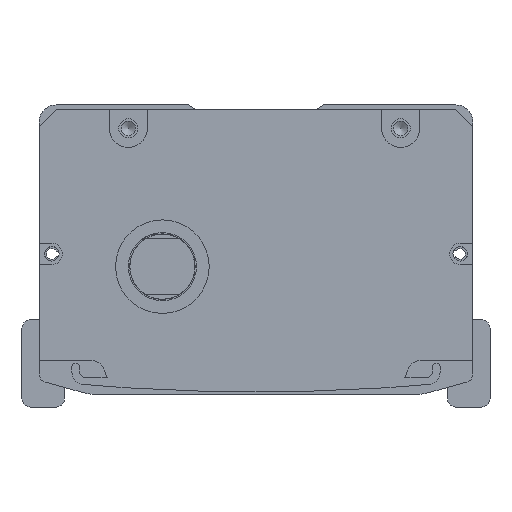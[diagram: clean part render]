
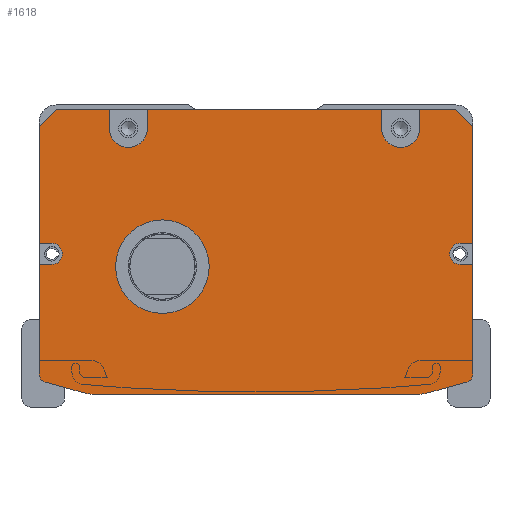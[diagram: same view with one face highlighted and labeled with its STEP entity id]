
A CAD part, front view. The second image highlights one B-rep face of the part: STEP entity #1618.
In plain terms, the highlighted planar face has unit normal (0, -1, 0).
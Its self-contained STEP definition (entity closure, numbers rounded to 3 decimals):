
#974=FACE_BOUND('',#3064,.T.);
#975=FACE_BOUND('',#3065,.T.);
#1618=ADVANCED_FACE('',(#974,#975),#2219,.F.);
#2219=PLANE('',#11855);
#3064=EDGE_LOOP('',(#5417,#5418,#5419,#5420,#5421,#5422,#5423,#5424,#5425,
#5426,#5427,#5428,#5429,#5430,#5431,#5432,#5433,#5434,#5435,#5436,#5437,
#5438,#5439,#5440,#5441,#5442,#5443,#5444));
#3065=EDGE_LOOP('',(#5445));
#4019=CIRCLE('',#11846,4.5);
#4020=CIRCLE('',#11847,4.5);
#4021=CIRCLE('',#11848,2.5);
#4022=CIRCLE('',#11849,2.);
#4023=CIRCLE('',#11850,10.);
#4024=CIRCLE('',#11851,10.);
#4025=CIRCLE('',#11852,2.);
#4026=CIRCLE('',#11853,2.5);
#4027=CIRCLE('',#11854,11.);
#5417=ORIENTED_EDGE('',*,*,#8746,.T.);
#5418=ORIENTED_EDGE('',*,*,#9162,.T.);
#5419=ORIENTED_EDGE('',*,*,#9163,.T.);
#5420=ORIENTED_EDGE('',*,*,#9164,.F.);
#5421=ORIENTED_EDGE('',*,*,#9165,.T.);
#5422=ORIENTED_EDGE('',*,*,#9166,.F.);
#5423=ORIENTED_EDGE('',*,*,#9167,.T.);
#5424=ORIENTED_EDGE('',*,*,#9168,.F.);
#5425=ORIENTED_EDGE('',*,*,#9169,.T.);
#5426=ORIENTED_EDGE('',*,*,#9170,.F.);
#5427=ORIENTED_EDGE('',*,*,#9171,.T.);
#5428=ORIENTED_EDGE('',*,*,#9172,.T.);
#5429=ORIENTED_EDGE('',*,*,#8778,.T.);
#5430=ORIENTED_EDGE('',*,*,#9173,.T.);
#5431=ORIENTED_EDGE('',*,*,#9174,.T.);
#5432=ORIENTED_EDGE('',*,*,#9175,.T.);
#5433=ORIENTED_EDGE('',*,*,#8774,.T.);
#5434=ORIENTED_EDGE('',*,*,#9176,.T.);
#5435=ORIENTED_EDGE('',*,*,#9177,.T.);
#5436=ORIENTED_EDGE('',*,*,#9178,.T.);
#5437=ORIENTED_EDGE('',*,*,#9179,.T.);
#5438=ORIENTED_EDGE('',*,*,#9180,.T.);
#5439=ORIENTED_EDGE('',*,*,#9181,.T.);
#5440=ORIENTED_EDGE('',*,*,#9182,.T.);
#5441=ORIENTED_EDGE('',*,*,#8750,.T.);
#5442=ORIENTED_EDGE('',*,*,#9183,.T.);
#5443=ORIENTED_EDGE('',*,*,#9184,.T.);
#5444=ORIENTED_EDGE('',*,*,#9185,.T.);
#5445=ORIENTED_EDGE('',*,*,#9186,.T.);
#7622=VERTEX_POINT('',#16324);
#7623=VERTEX_POINT('',#16326);
#7626=VERTEX_POINT('',#16332);
#7627=VERTEX_POINT('',#16334);
#7648=VERTEX_POINT('',#16379);
#7649=VERTEX_POINT('',#16381);
#7652=VERTEX_POINT('',#16387);
#7653=VERTEX_POINT('',#16389);
#7916=VERTEX_POINT('',#17182);
#7917=VERTEX_POINT('',#17184);
#7918=VERTEX_POINT('',#17186);
#7919=VERTEX_POINT('',#17188);
#7920=VERTEX_POINT('',#17190);
#7921=VERTEX_POINT('',#17192);
#7922=VERTEX_POINT('',#17194);
#7923=VERTEX_POINT('',#17196);
#7924=VERTEX_POINT('',#17198);
#7925=VERTEX_POINT('',#17200);
#7926=VERTEX_POINT('',#17203);
#7927=VERTEX_POINT('',#17205);
#7928=VERTEX_POINT('',#17208);
#7929=VERTEX_POINT('',#17210);
#7930=VERTEX_POINT('',#17212);
#7931=VERTEX_POINT('',#17214);
#7932=VERTEX_POINT('',#17216);
#7933=VERTEX_POINT('',#17218);
#7934=VERTEX_POINT('',#17221);
#7935=VERTEX_POINT('',#17223);
#7936=VERTEX_POINT('',#17226);
#8746=EDGE_CURVE('',#7623,#7622,#10189,.T.);
#8750=EDGE_CURVE('',#7627,#7626,#10193,.T.);
#8774=EDGE_CURVE('',#7649,#7648,#10217,.T.);
#8778=EDGE_CURVE('',#7653,#7652,#10221,.T.);
#9162=EDGE_CURVE('',#7622,#7916,#10454,.T.);
#9163=EDGE_CURVE('',#7916,#7917,#10455,.T.);
#9164=EDGE_CURVE('',#7918,#7917,#10456,.T.);
#9165=EDGE_CURVE('',#7918,#7919,#4019,.T.);
#9166=EDGE_CURVE('',#7920,#7919,#10457,.T.);
#9167=EDGE_CURVE('',#7920,#7921,#10458,.T.);
#9168=EDGE_CURVE('',#7922,#7921,#10459,.T.);
#9169=EDGE_CURVE('',#7922,#7923,#4020,.T.);
#9170=EDGE_CURVE('',#7924,#7923,#10460,.T.);
#9171=EDGE_CURVE('',#7924,#7925,#10461,.T.);
#9172=EDGE_CURVE('',#7925,#7653,#10462,.T.);
#9173=EDGE_CURVE('',#7652,#7926,#10463,.T.);
#9174=EDGE_CURVE('',#7926,#7927,#4021,.T.);
#9175=EDGE_CURVE('',#7927,#7649,#10464,.T.);
#9176=EDGE_CURVE('',#7648,#7928,#4022,.T.);
#9177=EDGE_CURVE('',#7928,#7929,#10465,.T.);
#9178=EDGE_CURVE('',#7929,#7930,#4023,.T.);
#9179=EDGE_CURVE('',#7930,#7931,#10466,.T.);
#9180=EDGE_CURVE('',#7931,#7932,#4024,.T.);
#9181=EDGE_CURVE('',#7932,#7933,#10467,.T.);
#9182=EDGE_CURVE('',#7933,#7627,#4025,.T.);
#9183=EDGE_CURVE('',#7626,#7934,#10468,.T.);
#9184=EDGE_CURVE('',#7934,#7935,#4026,.T.);
#9185=EDGE_CURVE('',#7935,#7623,#10469,.T.);
#9186=EDGE_CURVE('',#7936,#7936,#4027,.T.);
#10189=LINE('',#16325,#10842);
#10193=LINE('',#16333,#10846);
#10217=LINE('',#16380,#10870);
#10221=LINE('',#16388,#10874);
#10454=LINE('',#17181,#11107);
#10455=LINE('',#17183,#11108);
#10456=LINE('',#17185,#11109);
#10457=LINE('',#17189,#11110);
#10458=LINE('',#17191,#11111);
#10459=LINE('',#17193,#11112);
#10460=LINE('',#17197,#11113);
#10461=LINE('',#17199,#11114);
#10462=LINE('',#17201,#11115);
#10463=LINE('',#17202,#11116);
#10464=LINE('',#17206,#11117);
#10465=LINE('',#17209,#11118);
#10466=LINE('',#17213,#11119);
#10467=LINE('',#17217,#11120);
#10468=LINE('',#17220,#11121);
#10469=LINE('',#17224,#11122);
#10842=VECTOR('',#13034,1.);
#10846=VECTOR('',#13038,1.);
#10870=VECTOR('',#13064,1.);
#10874=VECTOR('',#13068,1.);
#11107=VECTOR('',#13895,1.);
#11108=VECTOR('',#13896,1.);
#11109=VECTOR('',#13897,1.);
#11110=VECTOR('',#13900,1.);
#11111=VECTOR('',#13901,1.);
#11112=VECTOR('',#13902,1.);
#11113=VECTOR('',#13905,1.);
#11114=VECTOR('',#13906,1.);
#11115=VECTOR('',#13907,1.);
#11116=VECTOR('',#13908,1.);
#11117=VECTOR('',#13911,1.);
#11118=VECTOR('',#13914,1.);
#11119=VECTOR('',#13917,1.);
#11120=VECTOR('',#13920,1.);
#11121=VECTOR('',#13923,1.);
#11122=VECTOR('',#13926,1.);
#11846=AXIS2_PLACEMENT_3D('',#17187,#13898,#13899);
#11847=AXIS2_PLACEMENT_3D('',#17195,#13903,#13904);
#11848=AXIS2_PLACEMENT_3D('',#17204,#13909,#13910);
#11849=AXIS2_PLACEMENT_3D('',#17207,#13912,#13913);
#11850=AXIS2_PLACEMENT_3D('',#17211,#13915,#13916);
#11851=AXIS2_PLACEMENT_3D('',#17215,#13918,#13919);
#11852=AXIS2_PLACEMENT_3D('',#17219,#13921,#13922);
#11853=AXIS2_PLACEMENT_3D('',#17222,#13924,#13925);
#11854=AXIS2_PLACEMENT_3D('',#17225,#13927,#13928);
#11855=AXIS2_PLACEMENT_3D('',#17227,#13929,#13930);
#13034=DIRECTION('',(0.,0.,1.));
#13038=DIRECTION('',(0.,0.,1.));
#13064=DIRECTION('',(0.,0.,-1.));
#13068=DIRECTION('',(0.,0.,-1.));
#13895=DIRECTION('',(-0.707,0.,0.707));
#13896=DIRECTION('',(-1.,0.,0.));
#13897=DIRECTION('',(0.,0.,1.));
#13898=DIRECTION('',(0.,1.,0.));
#13899=DIRECTION('',(0.,0.,1.));
#13900=DIRECTION('',(0.,0.,-1.));
#13901=DIRECTION('',(-1.,0.,0.));
#13902=DIRECTION('',(0.,0.,1.));
#13903=DIRECTION('',(0.,1.,0.));
#13904=DIRECTION('',(0.,0.,1.));
#13905=DIRECTION('',(0.,0.,-1.));
#13906=DIRECTION('',(-1.,0.,0.));
#13907=DIRECTION('',(-0.707,0.,-0.707));
#13908=DIRECTION('',(1.,0.,0.));
#13909=DIRECTION('',(0.,1.,0.));
#13910=DIRECTION('',(0.,0.,1.));
#13911=DIRECTION('',(-1.,0.,0.));
#13912=DIRECTION('',(0.,-1.,0.));
#13913=DIRECTION('',(0.,0.,1.));
#13914=DIRECTION('',(0.963,0.,-0.269));
#13915=DIRECTION('',(0.,-1.,0.));
#13916=DIRECTION('',(0.,0.,1.));
#13917=DIRECTION('',(1.,0.,0.));
#13918=DIRECTION('',(0.,-1.,0.));
#13919=DIRECTION('',(0.,0.,-1.));
#13920=DIRECTION('',(0.963,0.,0.269));
#13921=DIRECTION('',(0.,-1.,0.));
#13922=DIRECTION('',(0.,0.,-1.));
#13923=DIRECTION('',(-1.,0.,0.));
#13924=DIRECTION('',(0.,1.,0.));
#13925=DIRECTION('',(0.,0.,1.));
#13926=DIRECTION('',(1.,0.,0.));
#13927=DIRECTION('',(0.,1.,0.));
#13928=DIRECTION('',(0.,0.,1.));
#13929=DIRECTION('',(0.,1.,0.));
#13930=DIRECTION('',(1.,0.,0.));
#16324=CARTESIAN_POINT('',(47.808,-457.5,-5.));
#16325=CARTESIAN_POINT('',(47.808,-457.5,-1.));
#16326=CARTESIAN_POINT('',(47.808,-457.5,-32.5));
#16332=CARTESIAN_POINT('',(47.808,-457.5,-37.5));
#16333=CARTESIAN_POINT('',(47.808,-457.5,-1.));
#16334=CARTESIAN_POINT('',(47.808,-457.5,-63.212));
#16379=CARTESIAN_POINT('',(-54.192,-457.5,-63.212));
#16380=CARTESIAN_POINT('',(-54.192,-457.5,-62.));
#16381=CARTESIAN_POINT('',(-54.192,-457.5,-37.5));
#16387=CARTESIAN_POINT('',(-54.192,-457.5,-32.5));
#16388=CARTESIAN_POINT('',(-54.192,-457.5,-62.));
#16389=CARTESIAN_POINT('',(-54.192,-457.5,-5.));
#17181=CARTESIAN_POINT('',(43.808,-457.5,-1.));
#17182=CARTESIAN_POINT('',(43.808,-457.5,-1.));
#17183=CARTESIAN_POINT('',(-3.192,-457.5,-1.));
#17184=CARTESIAN_POINT('',(35.308,-457.5,-1.));
#17185=CARTESIAN_POINT('',(35.308,-457.5,-1.));
#17186=CARTESIAN_POINT('',(35.308,-457.5,-5.5));
#17187=CARTESIAN_POINT('',(30.808,-457.5,-5.5));
#17188=CARTESIAN_POINT('',(26.308,-457.5,-5.5));
#17189=CARTESIAN_POINT('',(26.308,-457.5,-1.));
#17190=CARTESIAN_POINT('',(26.308,-457.5,-1.));
#17191=CARTESIAN_POINT('',(-54.192,-457.5,-1.));
#17192=CARTESIAN_POINT('',(-28.692,-457.5,-1.));
#17193=CARTESIAN_POINT('',(-28.692,-457.5,-3.5));
#17194=CARTESIAN_POINT('',(-28.692,-457.5,-5.5));
#17195=CARTESIAN_POINT('',(-33.192,-457.5,-5.5));
#17196=CARTESIAN_POINT('',(-37.692,-457.5,-5.5));
#17197=CARTESIAN_POINT('',(-37.692,-457.5,-1.));
#17198=CARTESIAN_POINT('',(-37.692,-457.5,-1.));
#17199=CARTESIAN_POINT('',(-54.192,-457.5,-1.));
#17200=CARTESIAN_POINT('',(-50.192,-457.5,-1.));
#17201=CARTESIAN_POINT('',(-54.192,-457.5,-5.));
#17202=CARTESIAN_POINT('',(-3.192,-457.5,-32.5));
#17203=CARTESIAN_POINT('',(-51.192,-457.5,-32.5));
#17204=CARTESIAN_POINT('',(-51.192,-457.5,-35.));
#17205=CARTESIAN_POINT('',(-51.192,-457.5,-37.5));
#17206=CARTESIAN_POINT('',(-3.192,-457.5,-37.5));
#17207=CARTESIAN_POINT('',(-52.192,-457.5,-63.212));
#17208=CARTESIAN_POINT('',(-52.731,-457.5,-65.138));
#17209=CARTESIAN_POINT('',(-55.807,-457.5,-64.279));
#17210=CARTESIAN_POINT('',(-43.809,-457.5,-67.631));
#17211=CARTESIAN_POINT('',(-41.118,-457.5,-58.));
#17212=CARTESIAN_POINT('',(-41.118,-457.5,-68.));
#17213=CARTESIAN_POINT('',(-54.692,-457.5,-68.));
#17214=CARTESIAN_POINT('',(34.733,-457.5,-68.));
#17215=CARTESIAN_POINT('',(34.733,-457.5,-58.));
#17216=CARTESIAN_POINT('',(37.424,-457.5,-67.631));
#17217=CARTESIAN_POINT('',(49.422,-457.5,-64.279));
#17218=CARTESIAN_POINT('',(46.346,-457.5,-65.138));
#17219=CARTESIAN_POINT('',(45.808,-457.5,-63.212));
#17220=CARTESIAN_POINT('',(-3.192,-457.5,-37.5));
#17221=CARTESIAN_POINT('',(44.808,-457.5,-37.5));
#17222=CARTESIAN_POINT('',(44.808,-457.5,-35.));
#17223=CARTESIAN_POINT('',(44.808,-457.5,-32.5));
#17224=CARTESIAN_POINT('',(-3.192,-457.5,-32.5));
#17225=CARTESIAN_POINT('',(-25.192,-457.5,-38.));
#17226=CARTESIAN_POINT('',(-25.192,-457.5,-27.));
#17227=CARTESIAN_POINT('',(-3.192,-457.5,-1.));
